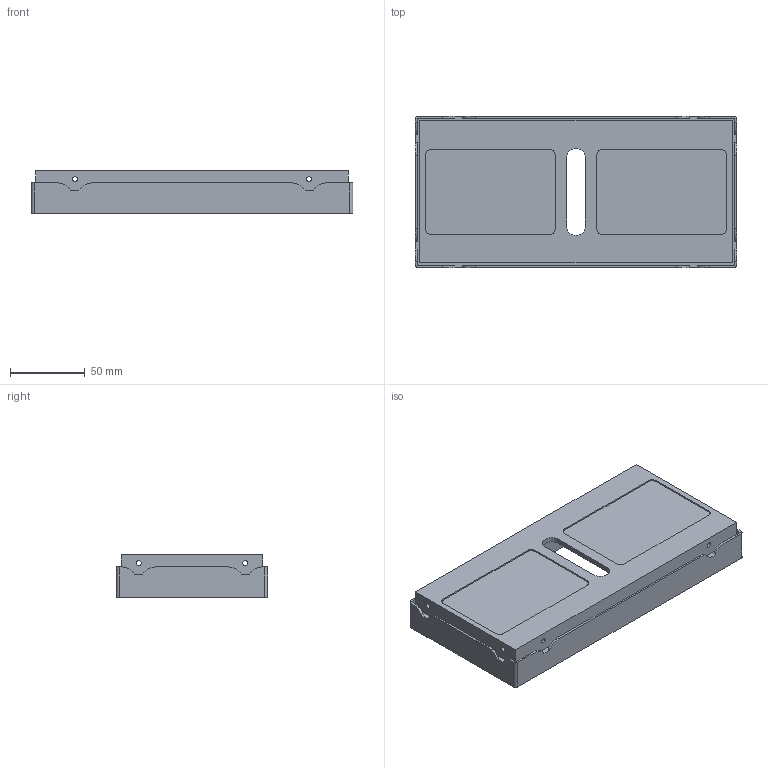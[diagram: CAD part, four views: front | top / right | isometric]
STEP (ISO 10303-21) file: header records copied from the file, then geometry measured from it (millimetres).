
FILE_DESCRIPTION(/* description */ ('STEP AP242 Edition 2','CAx-IF Rec.Pracs.---Representation and Presentation of Product Manufacturing Information (PMI)---4.0---2014-10-13','CAx-IF Rec.Pracs.---3D Tessellated Geometry---0.4---2014-09-14','2;1','CAx-IF Rec.Pracs.---User Defined Attributes---1.5---2016-08-15'),/* implementation_level */ '2;1');
FILE_NAME(/* name */ '697ce065fb3a1f34494687d7',/* time_stamp */ '2026-01-30T16:46:30Z',/* author */ (''),/* organization */ (''),/* preprocessor_version */ 'ST-DEVELOPER v20',/* originating_system */ 'ONSHAPE BY PTC INC, 1.209',/* authorisation */ ' ');
FILE_SCHEMA (('AP242_MANAGED_MODEL_BASED_3D_ENGINEERING_MIM_LF { 1 0 10303 442 3 1 4 }'));
Length unit declared in the file: metre
Products named in the file (1): Part 1
Bounding box: 215.9 x 101.6 x 28.45 mm (x, y, z)
Volume: 159836.8 mm3; surface area: 82163.9 mm2
Topology: 1 solids, 1 shells, 110 faces, 306 edges, 206 vertices
Faces by surface type: plane 66, cylinder 44
Full cylindrical faces by diameter (mm): 3.3 x12
Entity records: 3494 total; most frequent: CARTESIAN_POINT 599, DIRECTION 598, ORIENTED_EDGE 576, EDGE_CURVE 288, VERTEX_POINT 200, LINE 200, VECTOR 200, AXIS2_PLACEMENT_3D 199
